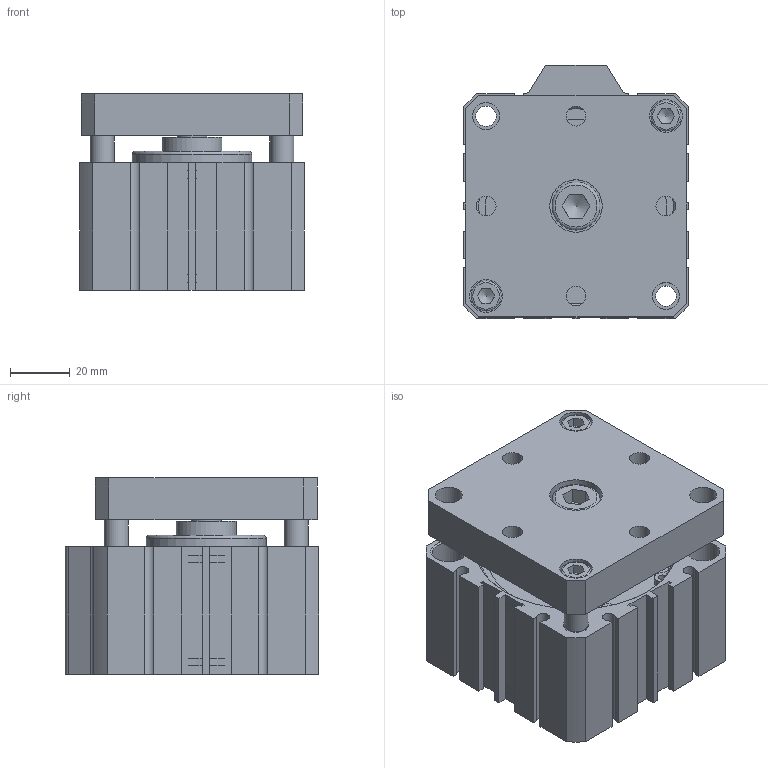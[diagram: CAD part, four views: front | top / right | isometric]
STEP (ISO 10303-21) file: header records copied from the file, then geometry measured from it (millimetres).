
FILE_DESCRIPTION((''),'2;1');
FILE_NAME('I:\3D電子目錄\氣缸\JTD\JTD\JTD63\JTD63x10.stp','2007-08-14T19:44:48',('Administrator'),(''),'Autodesk Inventor 11','Autodesk Inventor 11','');
FILE_SCHEMA(('AUTOMOTIVE_DESIGN { 1 0 10303 214 1 1 1 1 }'));
Length unit declared in the file: millimetre
Products named in the file (5): JTD63; R 形環 65; ISO 4762 M10 x 16; ISO 4762 M6 x 20
Assembly tree (6 placements, depth 2):
  JTD63
    JTD63
    R 形環 65  x2
    ISO 4762 M10 x 16
    ISO 4762 M6 x 20  x2
Bounding box: 75 x 84.5 x 65.5 mm (x, y, z)
Volume: 282614.8 mm3; surface area: 65814.3 mm2
Topology: 7 solids, 7 shells, 232 faces, 563 edges, 372 vertices
Faces by surface type: plane 136, cylinder 61, bspline 16, cone 14, torus 5
Full cylindrical faces by diameter (mm): 2.7 x4, 3 x2, 6 x2, 6.8 x2, 8 x2, 8.5 x2, 9 x2, 10 x3, 11 x4, 16 x1, 20 x1, 40 x1, 47 x1, 65 x4, 68 x2
Entity records: 6069 total; most frequent: CARTESIAN_POINT 1279, DIRECTION 964, ORIENTED_EDGE 866, EDGE_CURVE 433, AXIS2_PLACEMENT_3D 342, VERTEX_POINT 321, EDGE_LOOP 316, VECTOR 280
